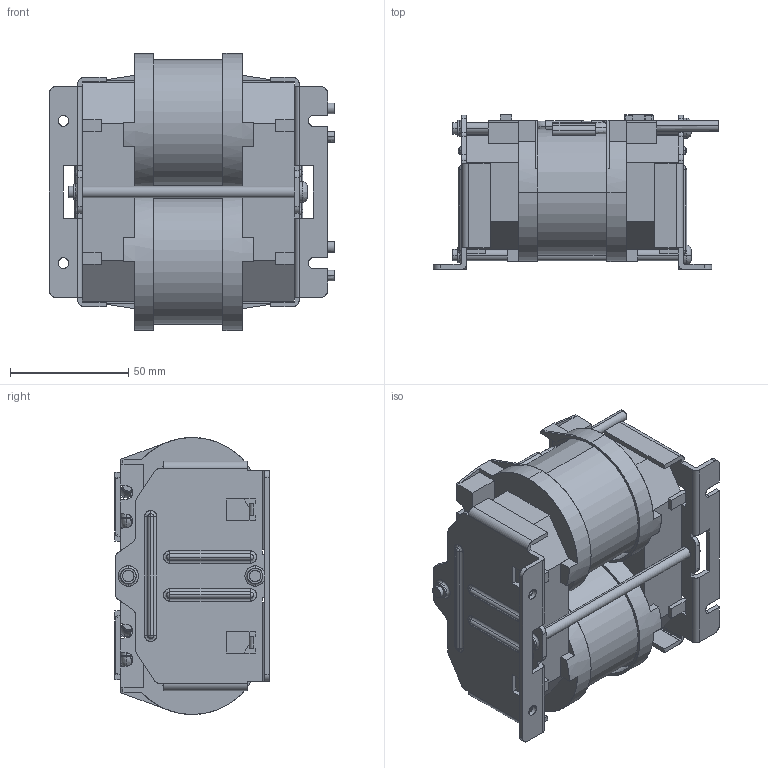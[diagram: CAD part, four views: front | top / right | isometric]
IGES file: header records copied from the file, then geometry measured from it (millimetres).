
Start section: SolidWorks IGES file using analytic representation for surfaces
Global section: file name: \\10.106.230.1\r&d file\05_COMP\02_Mechanical\10_Others\PV_RT 81\网络用3D模型\卧式模型\网络用模型\SF11231B-SH00DS20R(H-5KW_ACL-S).IGS,15HSolidWorks; native system: 2009; preprocessor: SolidWorks 2009; author: test; date: 120508.154811; units: millimetre
Bounding box: 120.5 x 65.25 x 116.9 mm (x, y, z)
Surface area: 117780.3 mm2 (no closed solid volume)
Topology: 0 solids, 0 shells, 879 faces, 10219 edges, 10196 vertices
Faces by surface type: bspline 567, revolution 312
